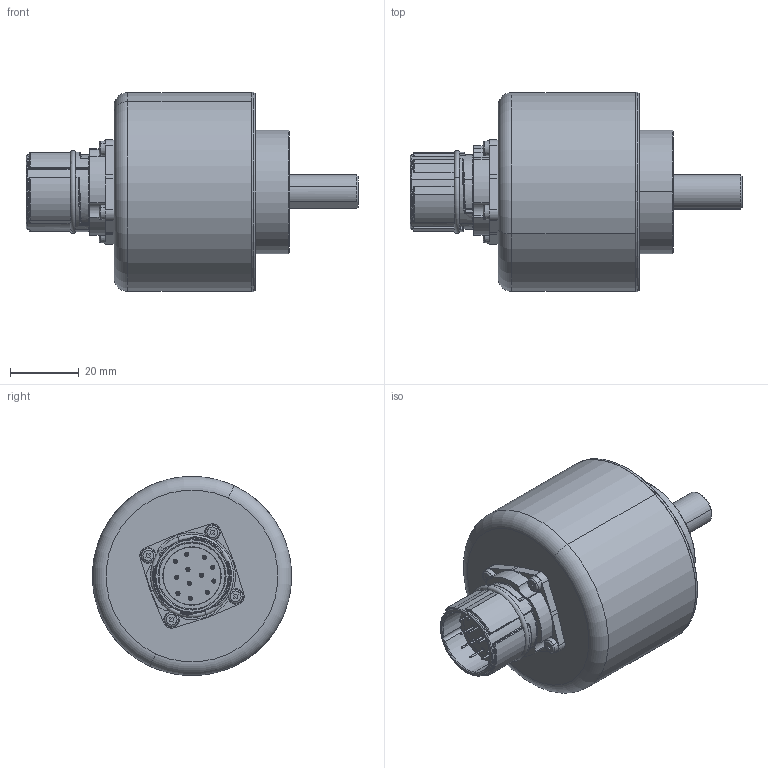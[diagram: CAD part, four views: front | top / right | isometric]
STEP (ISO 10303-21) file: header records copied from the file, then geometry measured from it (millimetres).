
FILE_DESCRIPTION (( 'STEP AP203' ), '1' );
FILE_NAME ('8.5804.12X3.XXXX.STEP', '2013-11-19T09:27:28', ( 'HeirlerN' ), ( 'Microsoft' ), 'SwSTEP 2.0', 'SolidWorks 2013', '' );
FILE_SCHEMA (( 'CONFIG_CONTROL_DESIGN' ));
Length unit declared in the file: millimetre
Products named in the file (1): 8.5804.12X3.XXXX
Bounding box: 96.55 x 58 x 58 mm (x, y, z)
Volume: 57810 mm3; surface area: 45278.7 mm2
Topology: 23 solids, 23 shells, 897 faces, 2088 edges, 1262 vertices
Faces by surface type: cylinder 415, plane 200, cone 114, torus 73, sphere 68, bspline 27
Entity records: 26435 total; most frequent: CARTESIAN_POINT 5826, DIRECTION 4728, ORIENTED_EDGE 3964, AXIS2_PLACEMENT_3D 2006, EDGE_CURVE 1982, VERTEX_POINT 1224, CIRCLE 1135, EDGE_LOOP 1064
